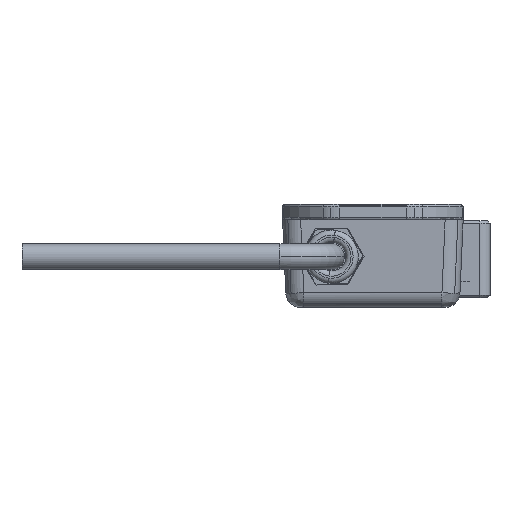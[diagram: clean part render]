
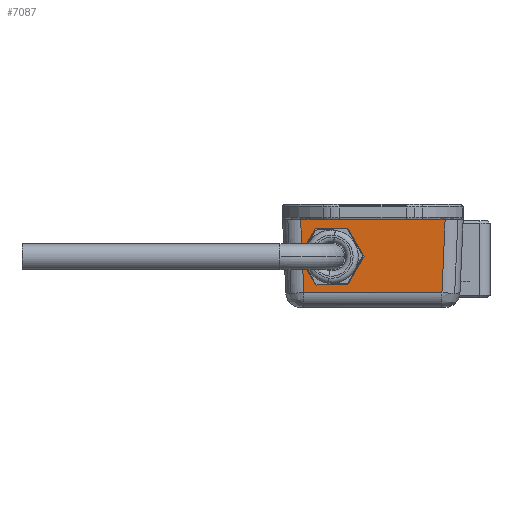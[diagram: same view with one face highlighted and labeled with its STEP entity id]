
A CAD part, front view. The second image highlights one B-rep face of the part: STEP entity #7087.
In plain terms, the highlighted planar face has unit normal (0, -0.999, -0.044).
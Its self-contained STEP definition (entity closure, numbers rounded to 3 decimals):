
#108 = CARTESIAN_POINT ( 'NONE',  ( -2.279, -222.857, 44.388 ) ) ;
#610 = ORIENTED_EDGE ( 'NONE', *, *, #3946, .T. ) ;
#638 = EDGE_LOOP ( 'NONE', ( #11010, #610 ) ) ;
#1483 = DIRECTION ( 'NONE',  ( -0.044, 0.044, -0.998 ) ) ;
#1787 = VERTEX_POINT ( 'NONE', #5575 ) ;
#1964 = CARTESIAN_POINT ( 'NONE',  ( 11.894, -222.32, 32.1 ) ) ;
#2184 = VECTOR ( 'NONE', #7651, 1000. ) ;
#2311 = LINE ( 'NONE', #2378, #12877 ) ;
#2378 = CARTESIAN_POINT ( 'NONE',  ( -10.242, -222.32, 32.1 ) ) ;
#3018 = DIRECTION ( 'NONE',  ( -0.044, -0.044, 0.998 ) ) ;
#3163 = CARTESIAN_POINT ( 'NONE',  ( -10.165, -222.798, 43.043 ) ) ;
#3481 = CARTESIAN_POINT ( 'NONE',  ( -8.82, -222.454, 35.157 ) ) ;
#3829 = VECTOR ( 'NONE', #1483, 1000. ) ;
#3946 = EDGE_CURVE ( 'NONE', #5102, #1787, #12067, .T. ) ;
#3990 = VERTEX_POINT ( 'NONE', #5592 ) ;
#4171 = CARTESIAN_POINT ( 'NONE',  ( 12.511, -222.937, 46.231 ) ) ;
#4511 = CARTESIAN_POINT ( 'NONE',  ( -0.934, -222.512, 36.502 ) ) ;
#5102 = VERTEX_POINT ( 'NONE', #3481 ) ;
#5328 = DIRECTION ( 'NONE',  ( -1., 0., 0. ) ) ;
#5386 = CARTESIAN_POINT ( 'NONE',  ( -8.82, -222.454, 35.157 ) ) ;
#5575 = CARTESIAN_POINT ( 'NONE',  ( -10.165, -222.798, 43.043 ) ) ;
#5592 = CARTESIAN_POINT ( 'NONE',  ( -15.496, -222.937, 46.231 ) ) ;
#6190 = EDGE_CURVE ( 'NONE', #11528, #12513, #10078, .T. ) ;
#6326 = CARTESIAN_POINT ( 'NONE',  ( -18.051, -222.739, 41.698 ) ) ;
#6727 = CARTESIAN_POINT ( 'NONE',  ( -10.165, -222.798, 43.043 ) ) ;
#6778 = VECTOR ( 'NONE', #3018, 1000. ) ;
#6841 = LINE ( 'NONE', #7791, #2184 ) ;
#7087 = ADVANCED_FACE ( 'NONE', ( #7566, #14104 ), #12936, .T. ) ;
#7273 = CARTESIAN_POINT ( 'NONE',  ( -15.445, -222.887, 45.078 ) ) ;
#7566 = FACE_BOUND ( 'NONE', #638, .T. ) ;
#7651 = DIRECTION ( 'NONE',  ( -1., 0., 0. ) ) ;
#7791 = CARTESIAN_POINT ( 'NONE',  ( 16.008, -222.937, 46.231 ) ) ;
#7820 = CARTESIAN_POINT ( 'NONE',  ( -14.879, -222.32, 32.1 ) ) ;
#8106 = ORIENTED_EDGE ( 'NONE', *, *, #9128, .F. ) ;
#8375 = CARTESIAN_POINT ( 'NONE',  ( -18.992, -222.937, 46.231 ) ) ;
#8759 =( BOUNDED_CURVE ( )  B_SPLINE_CURVE ( 3, ( #6727, #108, #4511, #8916 ),
 .UNSPECIFIED., .F., .T. ) 
 B_SPLINE_CURVE_WITH_KNOTS ( ( 4, 4 ),
 ( 2.973, 6.114 ),
 .UNSPECIFIED. ) 
 CURVE ( )  GEOMETRIC_REPRESENTATION_ITEM ( )  RATIONAL_B_SPLINE_CURVE ( ( 1., 0.333, 0.333, 1. ) ) 
 REPRESENTATION_ITEM ( '' )  );
#8811 = DIRECTION ( 'NONE',  ( -1., 0., 0. ) ) ;
#8916 = CARTESIAN_POINT ( 'NONE',  ( -8.82, -222.454, 35.157 ) ) ;
#9128 = EDGE_CURVE ( 'NONE', #13472, #3990, #10689, .T. ) ;
#9173 = ORIENTED_EDGE ( 'NONE', *, *, #10163, .F. ) ;
#10078 = LINE ( 'NONE', #13560, #3829 ) ;
#10163 = EDGE_CURVE ( 'NONE', #12513, #13472, #2311, .T. ) ;
#10689 = LINE ( 'NONE', #7273, #6778 ) ;
#10700 = DIRECTION ( 'NONE',  ( 0., -0.999, -0.044 ) ) ;
#10909 = EDGE_CURVE ( 'NONE', #1787, #5102, #8759, .T. ) ;
#10957 = AXIS2_PLACEMENT_3D ( 'NONE', #8375, #10700, #5328 ) ;
#11010 = ORIENTED_EDGE ( 'NONE', *, *, #10909, .T. ) ;
#11528 = VERTEX_POINT ( 'NONE', #4171 ) ;
#11605 = ORIENTED_EDGE ( 'NONE', *, *, #13720, .T. ) ;
#12067 =( BOUNDED_CURVE ( )  B_SPLINE_CURVE ( 3, ( #5386, #13075, #6326, #3163 ),
 .UNSPECIFIED., .F., .F. ) 
 B_SPLINE_CURVE_WITH_KNOTS ( ( 4, 4 ),
 ( 6.114, 9.256 ),
 .UNSPECIFIED. ) 
 CURVE ( )  GEOMETRIC_REPRESENTATION_ITEM ( )  RATIONAL_B_SPLINE_CURVE ( ( 1., 0.333, 0.333, 1. ) ) 
 REPRESENTATION_ITEM ( '' )  );
#12513 = VERTEX_POINT ( 'NONE', #1964 ) ;
#12877 = VECTOR ( 'NONE', #8811, 1000. ) ;
#12936 = PLANE ( 'NONE',  #10957 ) ;
#12988 = EDGE_LOOP ( 'NONE', ( #9173, #14156, #11605, #8106 ) ) ;
#13075 = CARTESIAN_POINT ( 'NONE',  ( -16.706, -222.395, 33.812 ) ) ;
#13472 = VERTEX_POINT ( 'NONE', #7820 ) ;
#13560 = CARTESIAN_POINT ( 'NONE',  ( 12.484, -222.91, 45.622 ) ) ;
#13720 = EDGE_CURVE ( 'NONE', #11528, #3990, #6841, .T. ) ;
#14104 = FACE_OUTER_BOUND ( 'NONE', #12988, .T. ) ;
#14156 = ORIENTED_EDGE ( 'NONE', *, *, #6190, .F. ) ;
